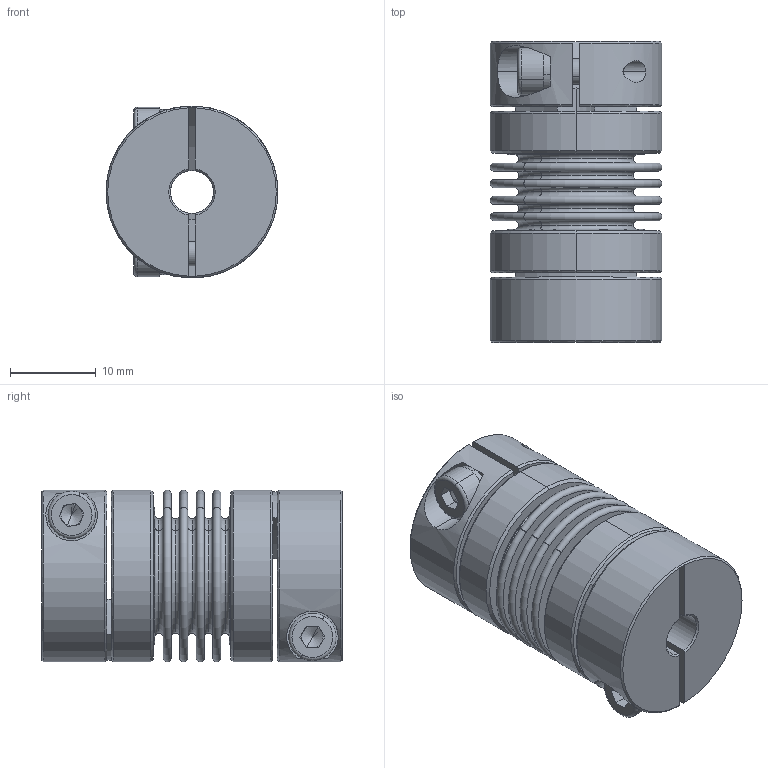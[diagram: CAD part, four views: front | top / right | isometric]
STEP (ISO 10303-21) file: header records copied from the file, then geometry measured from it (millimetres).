
FILE_DESCRIPTION (( 'STEP AP203' ), '1' );
FILE_NAME ('LB-B-D20L34-5-7.STEP', '2021-11-04T01:39:26', ( '' ), ( '' ), 'SwSTEP 2.0', 'SolidWorks 2018', '' );
FILE_SCHEMA (( 'CONFIG_CONTROL_DESIGN' ));
Length unit declared in the file: millimetre
Products named in the file (2): LB-B-D20L34-5-7; 零件4^LB-B-D20L34 波纹管联轴器-组装体
Assembly tree (1 placements, depth 2):
  LB-B-D20L34-5-7
    零件4^LB-B-D20L34 波纹管联轴器-组装体
Bounding box: 20 x 35 x 20 mm (x, y, z)
Volume: 6107.9 mm3; surface area: 9558.5 mm2
Topology: 1 solids, 1 shells, 246 faces, 572 edges, 354 vertices
Faces by surface type: plane 83, torus 68, cylinder 61, cone 34
Entity records: 7500 total; most frequent: CARTESIAN_POINT 1478, DIRECTION 1376, ORIENTED_EDGE 1136, AXIS2_PLACEMENT_3D 604, EDGE_CURVE 568, VERTEX_POINT 354, CIRCLE 354, EDGE_LOOP 288
